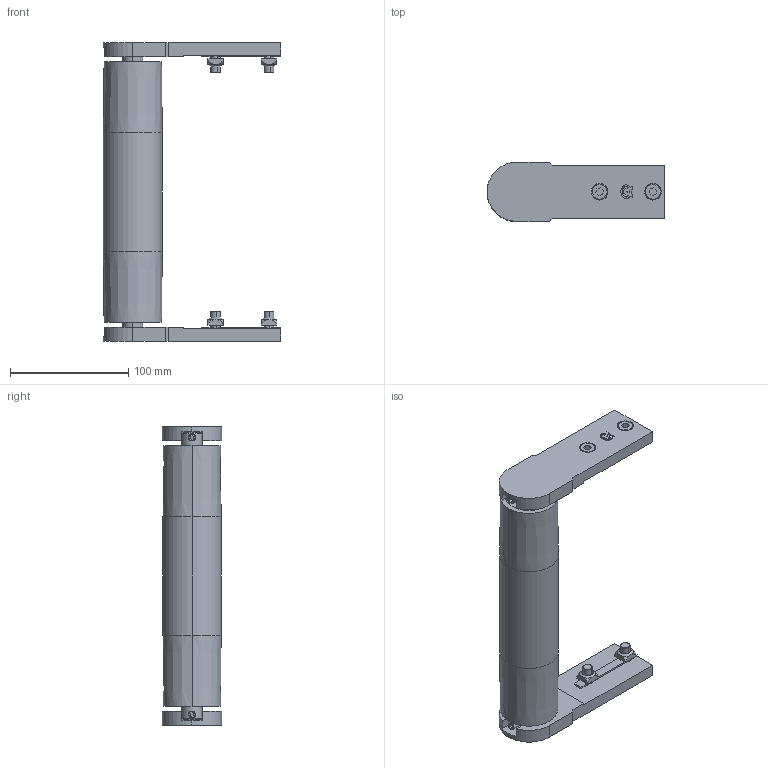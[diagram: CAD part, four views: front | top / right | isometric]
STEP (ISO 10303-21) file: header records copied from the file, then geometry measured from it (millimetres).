
FILE_DESCRIPTION (( 'STEP AP203' ), '1' );
FILE_NAME ('084.050.KIO.200.STEP', '2015-06-03T08:16:12', ( '' ), ( '' ), 'SwSTEP 2.0', 'SolidWorks 2012', '' );
FILE_SCHEMA (( 'CONFIG_CONTROL_DESIGN' ));
Length unit declared in the file: millimetre
Products named in the file (1): 084.050.KIO.200
Bounding box: 150 x 50 x 252 mm (x, y, z)
Volume: 417041.4 mm3; surface area: 130622.5 mm2
Topology: 18 solids, 18 shells, 426 faces, 1032 edges, 672 vertices
Faces by surface type: plane 180, cylinder 112, cone 48, bspline 46, torus 40
Entity records: 13439 total; most frequent: CARTESIAN_POINT 3433, ORIENTED_EDGE 2064, DIRECTION 2002, EDGE_CURVE 1032, AXIS2_PLACEMENT_3D 745, VERTEX_POINT 672, LINE 512, VECTOR 512
